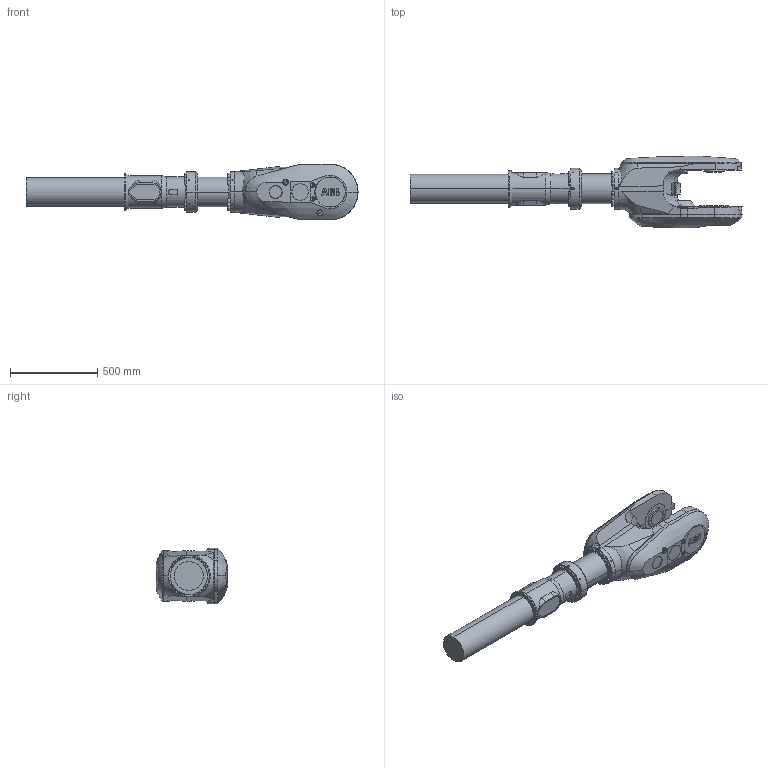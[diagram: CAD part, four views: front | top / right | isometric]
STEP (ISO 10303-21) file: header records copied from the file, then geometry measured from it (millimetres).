
FILE_DESCRIPTION (( 'STEP AP203' ), '1' );
FILE_NAME ('IRB6700-MH6_220-300_IRC5_rev00_LINK04_CAD.STEP', '2014-08-27T11:27:56', ( 'ABB' ), ( 'ABB' ), 'SwSTEP 2.0', 'SolidWorks 2012', '' );
FILE_SCHEMA (( 'CONFIG_CONTROL_DESIGN' ));
Length unit declared in the file: millimetre
Products named in the file (1): IRB6700-MH6_220-300_IRC5_rev00_LINK04_CAD
Bounding box: 1901.5 x 408.63 x 318 mm (x, y, z)
Volume: 75350817 mm3; surface area: 1783607.7 mm2
Topology: 1 solids, 1 shells, 699 faces, 1715 edges, 1086 vertices
Faces by surface type: plane 363, cylinder 174, cone 130, bspline 28, torus 4
Entity records: 26960 total; most frequent: CARTESIAN_POINT 10938, ORIENTED_EDGE 3374, DIRECTION 3160, EDGE_CURVE 1687, AXIS2_PLACEMENT_3D 1098, VERTEX_POINT 1086, LINE 964, VECTOR 964
